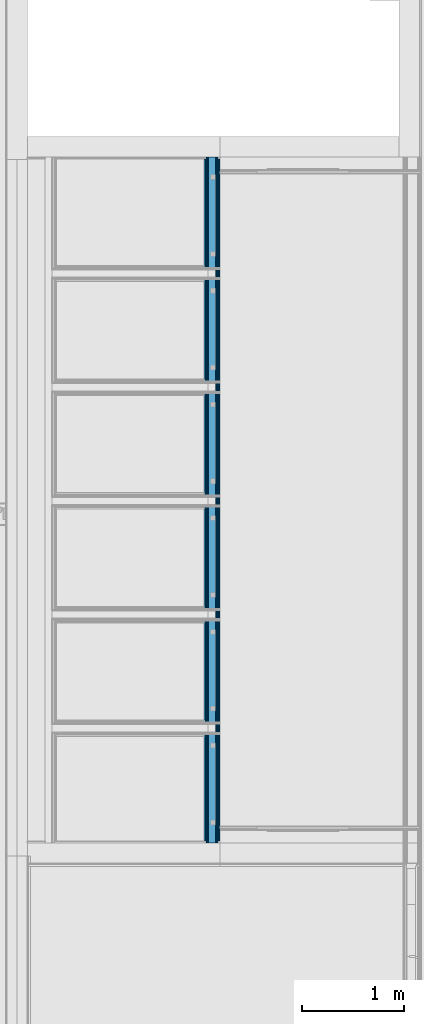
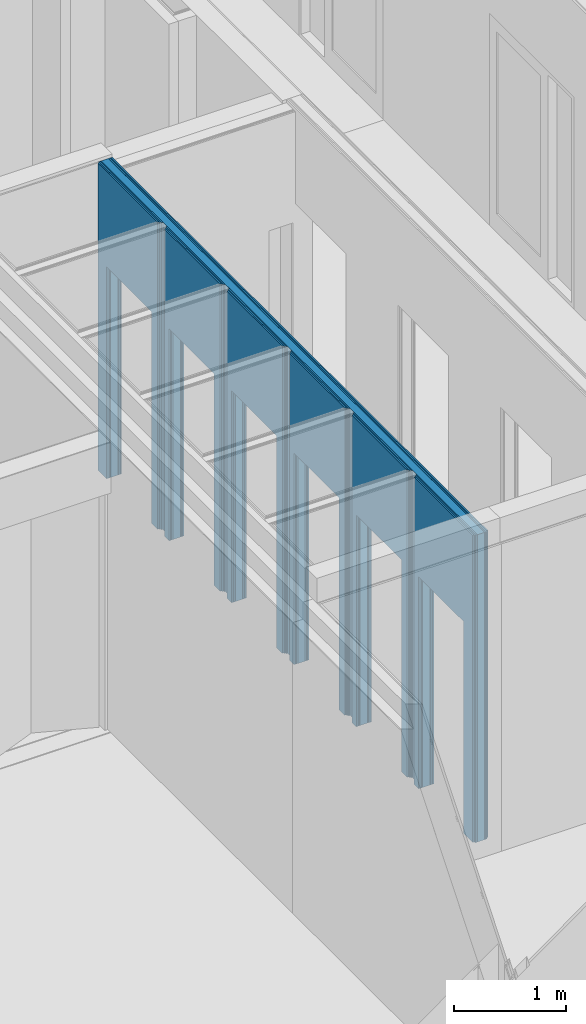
# One storey, part 65 of 139: 7 building element parts, 6 openings, 1 element without a shape of its own.
"""IFC2X3 building model written with IfcOpenShell, lengths in millimetres."""

from ifc_helpers import new_model, entity, si_unit, converted_unit, derived_unit, money_unit, direction, frame, origin_with_axes, place, context, subcontext, project, spatial, faceted_brep, material, type_object, element, aggregate, save


model = new_model("IFC2X3")

# Units and contexts
model_context = context("Model", 3, precision=0.01, world=origin_with_axes(), true_north=direction((0.0, 1.0)))
body_context = subcontext(model_context, "Body", "Model", "MODEL_VIEW")
ifc_project = project(units=[si_unit("LENGTHUNIT", "METRE", prefix="MILLI"), si_unit("AREAUNIT", "SQUARE_METRE"), si_unit("VOLUMEUNIT", "CUBIC_METRE"), converted_unit("PLANEANGLEUNIT", "DEGREE", entity("IfcPlaneAngleMeasure", 0.0174532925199), si_unit("PLANEANGLEUNIT", "RADIAN"), dimensions=[0, 0, 0, 0, 0, 0, 0]), money_unit("EUR"), converted_unit("TIMEUNIT", "Year", entity("IfcTimeMeasure", 31556926.0), si_unit("TIMEUNIT", "SECOND"), dimensions=[0, 0, 1, 0, 0, 0, 0]), si_unit("MASSUNIT", "GRAM", prefix="KILO"), si_unit("THERMODYNAMICTEMPERATUREUNIT", "DEGREE_CELSIUS"), si_unit("LUMINOUSINTENSITYUNIT", "LUMEN"), si_unit("ENERGYUNIT", "JOULE", prefix="MEGA"), derived_unit("THERMALCONDUCTANCEUNIT", [(si_unit("POWERUNIT", "WATT"), 1), (si_unit("LENGTHUNIT", "METRE"), -1), (si_unit("THERMODYNAMICTEMPERATUREUNIT", "KELVIN"), -1)]), derived_unit("SPECIFICHEATCAPACITYUNIT", [(si_unit("ENERGYUNIT", "JOULE"), 1), (si_unit("MASSUNIT", "GRAM", prefix="KILO"), -1), (si_unit("THERMODYNAMICTEMPERATUREUNIT", "KELVIN"), -1)]), derived_unit("MASSDENSITYUNIT", [(si_unit("MASSUNIT", "GRAM", prefix="KILO"), 1), (si_unit("VOLUMEUNIT", "CUBIC_METRE"), -1)])], contexts=[model_context])

# Site, building, storey
site_placement = place(None, origin_with_axes())
site = spatial("IfcSite", under=ifc_project, at=site_placement, Name="Kolde pst 67a", CompositionType="ELEMENT")
building_placement = place(site_placement, origin_with_axes())
building = spatial("IfcBuilding", under=site, at=building_placement, Name="Riigigümnaasium", CompositionType="ELEMENT")
storey_placement = place(building_placement, frame((0.0, 0.0, 4600.0), z_axis=(0.0, 0.0, 1.0), x_axis=(1.0, 0.0, 0.0)))
storey = spatial("IfcBuildingStorey", under=building, at=storey_placement, Name="2. korrus", CompositionType="ELEMENT", Elevation=4600.0)

# Wall, openings, building element parts
wall_type = type_object("IfcWallType", Name="SS-MK-7,5/1_plaaditud 155", PredefinedType="NOTDEFINED")
wall_placement = place(storey_placement, frame((71829.9993607, 21023.7853079, 0.0), z_axis=(0.0, 0.0, 1.0), x_axis=(1.23997581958e-07, -1.0, 0.0)))
wall = element("IfcWall", 1, at=wall_placement, inside=storey, type_object=wall_type, Name="Sisesein")
opening_1_placement = place(wall_placement, frame((6119.419996, 0.0, 0.0), z_axis=(0.0, 0.0, 1.0), x_axis=(1.0, 0.0, 0.0)))
element("IfcOpeningElement", 2, at=opening_1_placement, cuts=wall, Name="Siseuks", context=body_context, shape_type="Brep", body=[
    faceted_brep([(400.0, -155.0, 2300.0), (400.0, -155.0, 0.0), (400.0, 310.0, 0.0), (400.0, 310.0, 2300.0), (-400.0, -155.0, 2300.0), (-400.0, -155.0, 0.0), (-400.0, 310.0, 0.0), (-400.0, 310.0, 2300.0)], [[[0, 1, 2, 3]], [[0, 4, 5, 1]], [[1, 5, 6, 2]], [[3, 2, 6, 7]], [[4, 0, 3, 7]], [[5, 4, 7, 6]]]),
])
opening_2_placement = place(wall_placement, frame((5009.419996, 0.0, 0.0), z_axis=(0.0, 0.0, 1.0), x_axis=(1.0, 0.0, 0.0)))
element("IfcOpeningElement", 3, at=opening_2_placement, cuts=wall, Name="Siseuks", context=body_context, shape_type="Brep", body=[
    faceted_brep([(400.0, -155.0, 2300.0), (400.0, -155.0, 0.0), (400.0, 310.0, 0.0), (400.0, 310.0, 2300.0), (-400.0, -155.0, 2300.0), (-400.0, -155.0, 0.0), (-400.0, 310.0, 0.0), (-400.0, 310.0, 2300.0)], [[[0, 1, 2, 3]], [[0, 4, 5, 1]], [[1, 5, 6, 2]], [[3, 2, 6, 7]], [[4, 0, 3, 7]], [[5, 4, 7, 6]]]),
])
opening_3_placement = place(wall_placement, frame((3899.419996, 0.0, 0.0), z_axis=(0.0, 0.0, 1.0), x_axis=(1.0, 0.0, 0.0)))
element("IfcOpeningElement", 4, at=opening_3_placement, cuts=wall, Name="Siseuks", context=body_context, shape_type="Brep", body=[
    faceted_brep([(400.0, -155.0, 2300.0), (400.0, -155.0, 0.0), (400.0, 310.0, 0.0), (400.0, 310.0, 2300.0), (-400.0, -155.0, 2300.0), (-400.0, -155.0, 0.0), (-400.0, 310.0, 0.0), (-400.0, 310.0, 2300.0)], [[[0, 1, 2, 3]], [[0, 4, 5, 1]], [[1, 5, 6, 2]], [[3, 2, 6, 7]], [[4, 0, 3, 7]], [[5, 4, 7, 6]]]),
])
opening_4_placement = place(wall_placement, frame((2789.419996, 0.0, 0.0), z_axis=(0.0, 0.0, 1.0), x_axis=(1.0, 0.0, 0.0)))
element("IfcOpeningElement", 5, at=opening_4_placement, cuts=wall, Name="Siseuks", context=body_context, shape_type="Brep", body=[
    faceted_brep([(-400.0, 310.0, 2300.0), (-400.0, 310.0, 0.0), (-400.0, -155.0, 0.0), (-400.0, -155.0, 2300.0), (400.0, 310.0, 2300.0), (400.0, 310.0, 0.0), (400.0, -155.0, 0.0), (400.0, -155.0, 2300.0)], [[[0, 1, 2, 3]], [[0, 4, 5, 1]], [[1, 5, 6, 2]], [[3, 2, 6, 7]], [[4, 0, 3, 7]], [[5, 4, 7, 6]]]),
])
opening_5_placement = place(wall_placement, frame((1679.419996, 0.0, 0.0), z_axis=(0.0, 0.0, 1.0), x_axis=(1.0, 0.0, 0.0)))
element("IfcOpeningElement", 6, at=opening_5_placement, cuts=wall, Name="Siseuks", context=body_context, shape_type="Brep", body=[
    faceted_brep([(-400.0, 310.0, 2300.0), (-400.0, 310.0, 0.0), (-400.0, -155.0, 0.0), (-400.0, -155.0, 2300.0), (400.0, 310.0, 2300.0), (400.0, 310.0, 0.0), (400.0, -155.0, 0.0), (400.0, -155.0, 2300.0)], [[[0, 1, 2, 3]], [[0, 4, 5, 1]], [[1, 5, 6, 2]], [[3, 2, 6, 7]], [[4, 0, 3, 7]], [[5, 4, 7, 6]]]),
])
opening_6_placement = place(wall_placement, frame((569.419995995, 0.0, 0.0), z_axis=(0.0, 0.0, 1.0), x_axis=(1.0, 0.0, 0.0)))
element("IfcOpeningElement", 7, at=opening_6_placement, cuts=wall, Name="Siseuks", context=body_context, shape_type="Brep", body=[
    faceted_brep([(-400.0, 310.0, 2300.0), (-400.0, 310.0, 0.0), (-400.0, -155.0, 0.0), (-400.0, -155.0, 2300.0), (400.0, 310.0, 2300.0), (400.0, 310.0, 0.0), (400.0, -155.0, 0.0), (400.0, -155.0, 2300.0)], [[[0, 1, 2, 3]], [[0, 4, 5, 1]], [[1, 5, 6, 2]], [[3, 2, 6, 7]], [[4, 0, 3, 7]], [[5, 4, 7, 6]]]),
])
ifc_material_1 = material(Name="_VIIMISTLUSKIHT - viimistlus vastavalt SA osale")
building_element_part_1_placement = place(wall_placement, origin_with_axes())
building_element_part_1 = element("IfcBuildingElementPart", 8, at=building_element_part_1_placement, material=ifc_material_1, Name="_VIIMISTLUSKIHT - viimistlus vastavalt SA osale", context=body_context, shape_type="Brep", body=[
    faceted_brep([(969.419995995, -2.22481872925e-05, 0.0), (969.419995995, -2.50493883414e-05, 2300.0), (169.419995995, -2.50493883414e-05, 2300.0), (169.419995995, -2.02293080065e-05, 0.0), (15.0000145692, -1.98396037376e-05, 0.0), (15.0000145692, -1.98396037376e-05, 3300.0), (1.45880711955e-05, -1.98396037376e-05, 3300.0), (1.4578436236e-05, -9.68259428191e-06, 3335.0), (6679.419996, -3.66579797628e-05, 3335.0), (6679.419996, -3.66579797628e-05, 0.0), (6519.419996, -3.62541925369e-05, 0.0), (6519.419996, -9.68258007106e-06, 2300.0), (5719.419996, -9.68258007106e-06, 2300.0), (5719.419996, -3.4235313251e-05, 0.0), (5409.419996, -3.3452991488e-05, 0.0), (5409.419996, -3.62541925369e-05, 2300.0), (4609.419996, -3.62541925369e-05, 2300.0), (4609.419996, -3.14341122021e-05, 0.0), (4299.419996, -3.06517904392e-05, 0.0), (4299.419996, -3.3452991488e-05, 2300.0), (3499.419996, -3.3452991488e-05, 2300.0), (3499.419996, -2.86329111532e-05, 0.0), (3189.419996, -2.78505893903e-05, 0.0), (3189.419996, -3.06517904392e-05, 2300.0), (2389.419996, -3.06517904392e-05, 2300.0), (2389.419996, -2.58317101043e-05, 0.0), (2079.419996, -2.50493883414e-05, 0.0), (2079.419996, -2.78505893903e-05, 2300.0), (1279.419996, -2.78505893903e-05, 2300.0), (1279.419996, -2.30305090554e-05, 0.0), (969.419995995, -15.0, 0.0), (969.419995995, -15.0000000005, 2300.0), (169.419995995, -15.0000000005, 2300.0), (169.419995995, -15.0, 0.0), (15.0000127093, -15.0, 0.0), (15.0000127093, -15.000000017, 3300.0), (1.27279591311e-05, -15.000000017, 3300.0), (1.17380061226e-05, -15.000000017, 3335.0), (6679.41999414, -15.0000000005, 3335.0), (6679.41999414, -15.0, 0.0), (6519.419996, -15.0, 0.0), (6519.419996, -15.0000000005, 2300.0), (5719.419996, -15.0000000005, 2300.0), (5719.419996, -15.0, 0.0), (5409.419996, -15.0, 0.0), (5409.419996, -15.0000000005, 2300.0), (4609.419996, -15.0000000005, 2300.0), (4609.419996, -15.0, 0.0), (4299.419996, -15.0, 0.0), (4299.419996, -15.0000000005, 2300.0), (3499.419996, -15.0000000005, 2300.0), (3499.419996, -15.0, 0.0), (3189.419996, -15.0, 0.0), (3189.419996, -15.0000000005, 2300.0), (2389.419996, -15.0000000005, 2300.0), (2389.419996, -15.0, 0.0), (2079.419996, -15.0, 0.0), (2079.419996, -15.0000000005, 2300.0), (1279.419996, -15.0000000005, 2300.0), (1279.419996, -15.0, 0.0)], [[[0, 1, 2, 3, 4, 5, 6, 7, 8, 9, 10, 11, 12, 13, 14, 15, 16, 17, 18, 19, 20, 21, 22, 23, 24, 25, 26, 27, 28, 29]], [[1, 0, 30, 31]], [[2, 1, 31, 32]], [[3, 2, 32, 33]], [[3, 33, 34, 4]], [[4, 34, 35, 5]], [[6, 5, 35, 36]], [[6, 36, 37, 7]], [[37, 38, 8, 7]], [[39, 9, 8, 38]], [[10, 9, 39, 40]], [[10, 40, 41, 11]], [[11, 41, 42, 12]], [[12, 42, 43, 13]], [[44, 14, 13, 43]], [[15, 14, 44, 45]], [[16, 15, 45, 46]], [[17, 16, 46, 47]], [[47, 48, 18, 17]], [[49, 19, 18, 48]], [[50, 20, 19, 49]], [[51, 21, 20, 50]], [[21, 51, 52, 22]], [[52, 53, 23, 22]], [[53, 54, 24, 23]], [[54, 55, 25, 24]], [[26, 25, 55, 56]], [[26, 56, 57, 27]], [[27, 57, 58, 28]], [[28, 58, 59, 29]], [[30, 0, 29, 59]], [[31, 30, 59, 58, 57, 56, 55, 54, 53, 52, 51, 50, 49, 48, 47, 46, 45, 44, 43, 42, 41, 40, 39, 38, 37, 36, 35, 34, 33, 32]]]),
])
ifc_material_2 = material(Name="_PLAATMATERJAL - kipsplaat veekindel")
building_element_part_2_placement = place(wall_placement, origin_with_axes())
building_element_part_2 = element("IfcBuildingElementPart", 9, at=building_element_part_2_placement, material=ifc_material_2, Name="_PLAATMATERJAL - kipsplaat veekindel", context=body_context, shape_type="Brep", body=[
    faceted_brep([(969.419995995, -15.0, 0.0), (969.419995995, -15.0, 2300.0), (169.419995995, -15.0, 2300.0), (169.419995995, -15.0, 0.0), (1.29458150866e-05, -15.0, 0.0), (1.43267087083e-06, -15.0000000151, 3335.0), (6694.41998855, -15.0000000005, 3335.0), (6694.41998855, -15.0, 0.0), (6519.419996, -15.0, 0.0), (6519.419996, -15.0000000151, 2300.0), (5719.419996, -15.0000000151, 2300.0), (5719.419996, -15.0, 0.0), (5409.419996, -15.0, 0.0), (5409.419996, -15.0, 2300.0), (4609.419996, -15.0, 2300.0), (4609.419996, -15.0, 0.0), (4299.419996, -15.0, 0.0), (4299.419996, -15.0, 2300.0), (3499.419996, -15.0, 2300.0), (3499.419996, -15.0, 0.0), (3189.419996, -15.0, 0.0), (3189.419996, -15.0, 2300.0), (2389.419996, -15.0, 2300.0), (2389.419996, -15.0, 0.0), (2079.419996, -15.0, 0.0), (2079.419996, -15.0, 2300.0), (1279.419996, -15.0, 2300.0), (1279.419996, -15.0, 0.0), (969.419995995, -27.5, 0.0), (969.419995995, -27.5, 2300.0), (169.419995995, -27.5, 2300.0), (169.419995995, -27.5, 0.0), (1.13958442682e-05, -27.5, 0.0), (1.2611423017e-06, -27.5, 3335.0), (6694.419987, -27.5, 3335.0), (6694.419987, -27.5, 0.0), (6519.419996, -27.5, 0.0), (6519.419996, -27.5, 2300.0), (5719.419996, -27.5, 2300.0), (5719.419996, -27.5, 0.0), (5409.419996, -27.5, 0.0), (5409.419996, -27.5, 2300.0), (4609.419996, -27.5, 2300.0), (4609.419996, -27.5, 0.0), (4299.419996, -27.5, 0.0), (4299.419996, -27.5, 2300.0), (3499.419996, -27.5, 2300.0), (3499.419996, -27.5, 0.0), (3189.419996, -27.5, 0.0), (3189.419996, -27.5, 2300.0), (2389.419996, -27.5, 2300.0), (2389.419996, -27.5, 0.0), (2079.419996, -27.5, 0.0), (2079.419996, -27.5, 2300.0), (1279.419996, -27.5, 2300.0), (1279.419996, -27.5, 0.0)], [[[0, 1, 2, 3, 4, 5, 6, 7, 8, 9, 10, 11, 12, 13, 14, 15, 16, 17, 18, 19, 20, 21, 22, 23, 24, 25, 26, 27]], [[1, 0, 28, 29]], [[2, 1, 29, 30]], [[3, 2, 30, 31]], [[3, 31, 32, 4]], [[4, 32, 33, 5]], [[33, 34, 6, 5]], [[35, 7, 6, 34]], [[8, 7, 35, 36]], [[8, 36, 37, 9]], [[9, 37, 38, 10]], [[10, 38, 39, 11]], [[40, 12, 11, 39]], [[13, 12, 40, 41]], [[14, 13, 41, 42]], [[15, 14, 42, 43]], [[43, 44, 16, 15]], [[45, 17, 16, 44]], [[46, 18, 17, 45]], [[47, 19, 18, 46]], [[19, 47, 48, 20]], [[48, 49, 21, 20]], [[49, 50, 22, 21]], [[50, 51, 23, 22]], [[24, 23, 51, 52]], [[24, 52, 53, 25]], [[25, 53, 54, 26]], [[26, 54, 55, 27]], [[28, 0, 27, 55]], [[29, 28, 55, 54, 53, 52, 51, 50, 49, 48, 47, 46, 45, 44, 43, 42, 41, 40, 39, 38, 37, 36, 35, 34, 33, 32, 31, 30]]]),
])
building_element_part_3_placement = place(wall_placement, origin_with_axes())
building_element_part_3 = element("IfcBuildingElementPart", 10, at=building_element_part_3_placement, material=ifc_material_2, Name="_PLAATMATERJAL - kipsplaat veekindel", context=body_context, shape_type="Brep", body=[
    faceted_brep([(969.419995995, -27.5, 0.0), (969.419995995, -27.5, 2300.0), (169.419995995, -27.5, 2300.0), (169.419995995, -27.5, 0.0), (1.13958442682e-05, -27.5, 0.0), (1.2611423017e-06, -27.5, 3335.0), (6694.419987, -27.5, 3335.0), (6694.419987, -27.5, 0.0), (6519.419996, -27.5, 0.0), (6519.419996, -27.5, 2300.0), (5719.419996, -27.5, 2300.0), (5719.419996, -27.5, 0.0), (5409.419996, -27.5, 0.0), (5409.419996, -27.5, 2300.0), (4609.419996, -27.5, 2300.0), (4609.419996, -27.5, 0.0), (4299.419996, -27.5, 0.0), (4299.419996, -27.5, 2300.0), (3499.419996, -27.5, 2300.0), (3499.419996, -27.5, 0.0), (3189.419996, -27.5, 0.0), (3189.419996, -27.5, 2300.0), (2389.419996, -27.5, 2300.0), (2389.419996, -27.5, 0.0), (2079.419996, -27.5, 0.0), (2079.419996, -27.5, 2300.0), (1279.419996, -27.5, 2300.0), (1279.419996, -27.5, 0.0), (969.419995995, -40.0, 0.0), (969.419995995, -40.0000000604, 2300.0), (169.419995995, -40.0000000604, 2300.0), (169.419995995, -40.0, 0.0), (9.84587700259e-06, -40.0, 0.0), (1.08961373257e-06, -40.0000018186, 3335.0), (6694.41998545, -40.0000000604, 3335.0), (6694.41998545, -40.0, 0.0), (6519.419996, -40.0, 0.0), (6519.419996, -40.0000000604, 2300.0), (5719.419996, -40.0000000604, 2300.0), (5719.419996, -40.0, 0.0), (5409.419996, -40.0, 0.0), (5409.419996, -40.0000000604, 2300.0), (4609.419996, -40.0000000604, 2300.0), (4609.419996, -40.0, 0.0), (4299.419996, -40.0, 0.0), (4299.419996, -40.0000000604, 2300.0), (3499.419996, -40.0000000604, 2300.0), (3499.419996, -40.0, 0.0), (3189.419996, -40.0, 0.0), (3189.419996, -40.0000000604, 2300.0), (2389.419996, -40.0000000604, 2300.0), (2389.419996, -40.0, 0.0), (2079.419996, -40.0, 0.0), (2079.419996, -40.0000000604, 2300.0), (1279.419996, -40.0000000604, 2300.0), (1279.419996, -40.0, 0.0)], [[[0, 1, 2, 3, 4, 5, 6, 7, 8, 9, 10, 11, 12, 13, 14, 15, 16, 17, 18, 19, 20, 21, 22, 23, 24, 25, 26, 27]], [[1, 0, 28, 29]], [[2, 1, 29, 30]], [[3, 2, 30, 31]], [[3, 31, 32, 4]], [[4, 32, 33, 5]], [[33, 34, 6, 5]], [[35, 7, 6, 34]], [[8, 7, 35, 36]], [[8, 36, 37, 9]], [[9, 37, 38, 10]], [[10, 38, 39, 11]], [[40, 12, 11, 39]], [[13, 12, 40, 41]], [[14, 13, 41, 42]], [[15, 14, 42, 43]], [[43, 44, 16, 15]], [[45, 17, 16, 44]], [[46, 18, 17, 45]], [[47, 19, 18, 46]], [[19, 47, 48, 20]], [[48, 49, 21, 20]], [[49, 50, 22, 21]], [[50, 51, 23, 22]], [[24, 23, 51, 52]], [[24, 52, 53, 25]], [[25, 53, 54, 26]], [[26, 54, 55, 27]], [[28, 0, 27, 55]], [[29, 28, 55, 54, 53, 52, 51, 50, 49, 48, 47, 46, 45, 44, 43, 42, 41, 40, 39, 38, 37, 36, 35, 34, 33, 32, 31, 30]]]),
])
ifc_material_3 = material(Name="_KARKASS - metallkarkass CW 75/50, mineraalvill karkassi vahel")
building_element_part_4_placement = place(wall_placement, origin_with_axes())
building_element_part_4 = element("IfcBuildingElementPart", 11, at=building_element_part_4_placement, material=ifc_material_3, Name="_KARKASS - metallkarkass CW 75/50, mineraalvill karkassi vahel", context=body_context, shape_type="Brep", body=[
    faceted_brep([(969.419995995, -40.0, 0.0), (969.419995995, -40.0, 2300.0), (169.419995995, -40.0, 2300.0), (169.419995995, -40.0, 0.0), (9.84587700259e-06, -40.0, 0.0), (1.08961373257e-06, -40.0000018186, 3335.0), (6694.41998545, -40.0000000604, 3335.0), (6694.41998545, -40.0, 0.0), (6519.419996, -40.0, 0.0), (6519.419996, -40.0000018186, 2300.0), (5719.419996, -40.0000018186, 2300.0), (5719.419996, -40.0, 0.0), (5409.419996, -40.0, 0.0), (5409.419996, -40.0, 2300.0), (4609.419996, -40.0, 2300.0), (4609.419996, -40.0, 0.0), (4299.419996, -40.0, 0.0), (4299.419996, -40.0, 2300.0), (3499.419996, -40.0, 2300.0), (3499.419996, -40.0, 0.0), (3189.419996, -40.0, 0.0), (3189.419996, -40.0, 2300.0), (2389.419996, -40.0, 2300.0), (2389.419996, -40.0, 0.0), (2079.419996, -40.0, 0.0), (2079.419996, -40.0, 2300.0), (1279.419996, -40.0, 2300.0), (1279.419996, -40.0, 0.0), (969.419995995, -115.0, 0.0), (969.419995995, -115.000000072, 2300.0), (169.419995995, -115.000000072, 2300.0), (169.419995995, -115.0, 0.0), (5.46059197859e-07, -115.0, 0.0), (6.04316596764e-08, -115.000002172, 3335.0), (6694.41997615, -115.000000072, 3335.0), (6694.41997615, -115.0, 0.0), (6519.419996, -115.0, 0.0), (6519.419996, -115.000000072, 2300.0), (5719.419996, -115.000000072, 2300.0), (5719.419996, -115.0, 0.0), (5409.419996, -115.0, 0.0), (5409.419996, -115.000000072, 2300.0), (4609.419996, -115.000000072, 2300.0), (4609.419996, -115.0, 0.0), (4299.419996, -115.0, 0.0), (4299.419996, -115.000000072, 2300.0), (3499.419996, -115.000000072, 2300.0), (3499.419996, -115.0, 0.0), (3189.419996, -115.0, 0.0), (3189.419996, -115.000000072, 2300.0), (2389.419996, -115.000000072, 2300.0), (2389.419996, -115.0, 0.0), (2079.419996, -115.0, 0.0), (2079.419996, -115.000000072, 2300.0), (1279.419996, -115.000000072, 2300.0), (1279.419996, -115.0, 0.0)], [[[0, 1, 2, 3, 4, 5, 6, 7, 8, 9, 10, 11, 12, 13, 14, 15, 16, 17, 18, 19, 20, 21, 22, 23, 24, 25, 26, 27]], [[1, 0, 28, 29]], [[2, 1, 29, 30]], [[3, 2, 30, 31]], [[3, 31, 32, 4]], [[4, 32, 33, 5]], [[33, 34, 6, 5]], [[35, 7, 6, 34]], [[8, 7, 35, 36]], [[8, 36, 37, 9]], [[9, 37, 38, 10]], [[10, 38, 39, 11]], [[40, 12, 11, 39]], [[13, 12, 40, 41]], [[14, 13, 41, 42]], [[15, 14, 42, 43]], [[43, 44, 16, 15]], [[45, 17, 16, 44]], [[46, 18, 17, 45]], [[47, 19, 18, 46]], [[19, 47, 48, 20]], [[48, 49, 21, 20]], [[49, 50, 22, 21]], [[50, 51, 23, 22]], [[24, 23, 51, 52]], [[24, 52, 53, 25]], [[25, 53, 54, 26]], [[26, 54, 55, 27]], [[28, 0, 27, 55]], [[29, 28, 55, 54, 53, 52, 51, 50, 49, 48, 47, 46, 45, 44, 43, 42, 41, 40, 39, 38, 37, 36, 35, 34, 33, 32, 31, 30]]]),
])
building_element_part_5_placement = place(wall_placement, origin_with_axes())
building_element_part_5 = element("IfcBuildingElementPart", 12, at=building_element_part_5_placement, material=ifc_material_2, Name="_PLAATMATERJAL - kipsplaat veekindel", context=body_context, shape_type="Brep", body=[
    faceted_brep([(6519.419996, -115.0, 0.0), (6519.419996, -115.000000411, 2300.0), (5719.419996, -115.000000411, 2300.0), (5719.419996, -115.0, 0.0), (5613.78532278, -115.0, 0.0), (5613.78532278, -115.000000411, 3335.0), (6694.41997615, -115.000000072, 3335.0), (6694.41997615, -115.0, 0.0), (6519.419996, -127.5, 0.0), (6519.419996, -127.5, 2300.0), (5719.419996, -127.5, 2300.0), (5719.419996, -127.5, 0.0), (5613.78532123, -127.5, 0.0), (5613.78532123, -127.5, 3335.0), (6694.4199746, -127.5, 3335.0), (6694.4199746, -127.5, 0.0)], [[[0, 1, 2, 3, 4, 5, 6, 7]], [[1, 0, 8, 9]], [[2, 1, 9, 10]], [[3, 2, 10, 11]], [[3, 11, 12, 4]], [[5, 4, 12, 13]], [[5, 13, 14, 6]], [[14, 15, 7, 6]], [[8, 0, 7, 15]], [[9, 8, 15, 14, 13, 12, 11, 10]]]),
    faceted_brep([(5409.419996, -115.0, 0.0), (5409.419996, -115.000000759, 2300.0), (4609.419996, -115.000000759, 2300.0), (4609.419996, -115.0, 0.0), (4503.78532278, -115.0, 0.0), (4503.78532278, -115.000000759, 3335.0), (5538.78532278, -115.000000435, 3335.0), (5538.78532278, -115.0, 0.0), (5409.419996, -127.5, 0.0), (5409.419996, -127.5, 2300.0), (4609.419996, -127.5, 2300.0), (4609.419996, -127.5, 0.0), (4503.78532123, -127.5, 0.0), (4503.78532123, -127.5, 3335.0), (5538.78532123, -127.5, 3335.0), (5538.78532123, -127.5, 0.0)], [[[0, 1, 2, 3, 4, 5, 6, 7]], [[1, 0, 8, 9]], [[2, 1, 9, 10]], [[3, 2, 10, 11]], [[3, 11, 12, 4]], [[5, 4, 12, 13]], [[5, 13, 14, 6]], [[14, 15, 7, 6]], [[8, 0, 7, 15]], [[9, 8, 15, 14, 13, 12, 11, 10]]]),
    faceted_brep([(4299.419996, -115.0, 0.0), (4299.419996, -115.000001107, 2300.0), (3499.419996, -115.000001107, 2300.0), (3499.419996, -115.0, 0.0), (3393.78532278, -115.0, 0.0), (3393.78532278, -115.000001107, 3335.0), (4428.78532278, -115.000000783, 3335.0), (4428.78532278, -115.0, 0.0), (4299.419996, -127.5, 0.0), (4299.419996, -127.5, 2300.0), (3499.419996, -127.5, 2300.0), (3499.419996, -127.5, 0.0), (3393.78532123, -127.5, 0.0), (3393.78532123, -127.5, 3335.0), (4428.78532123, -127.5, 3335.0), (4428.78532123, -127.5, 0.0)], [[[0, 1, 2, 3, 4, 5, 6, 7]], [[1, 0, 8, 9]], [[2, 1, 9, 10]], [[3, 2, 10, 11]], [[3, 11, 12, 4]], [[5, 4, 12, 13]], [[5, 13, 14, 6]], [[14, 15, 7, 6]], [[8, 0, 7, 15]], [[9, 8, 15, 14, 13, 12, 11, 10]]]),
    faceted_brep([(3189.419996, -115.0, 0.0), (3189.419996, -115.000001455, 2300.0), (2389.419996, -115.000001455, 2300.0), (2389.419996, -115.0, 0.0), (2283.78532278, -115.0, 0.0), (2283.78532278, -115.000001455, 3335.0), (3318.78532278, -115.000001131, 3335.0), (3318.78532278, -115.0, 0.0), (3189.419996, -127.5, 0.0), (3189.419996, -127.5, 2300.0), (2389.419996, -127.5, 2300.0), (2389.419996, -127.5, 0.0), (2283.78532123, -127.5, 0.0), (2283.78532123, -127.5, 3335.0), (3318.78532123, -127.5, 3335.0), (3318.78532123, -127.5, 0.0)], [[[0, 1, 2, 3, 4, 5, 6, 7]], [[1, 0, 8, 9]], [[2, 1, 9, 10]], [[3, 2, 10, 11]], [[3, 11, 12, 4]], [[5, 4, 12, 13]], [[5, 13, 14, 6]], [[14, 15, 7, 6]], [[8, 0, 7, 15]], [[9, 8, 15, 14, 13, 12, 11, 10]]]),
    faceted_brep([(2079.419996, -115.0, 0.0), (2079.419996, -115.000001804, 2300.0), (1279.419996, -115.000001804, 2300.0), (1279.419996, -115.0, 0.0), (1173.78532278, -115.0, 0.0), (1173.78532278, -115.000001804, 3335.0), (2208.78532278, -115.000001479, 3335.0), (2208.78532278, -115.0, 0.0), (2079.419996, -127.5, 0.0), (2079.419996, -127.5, 2300.0), (1279.419996, -127.5, 2300.0), (1279.419996, -127.5, 0.0), (1173.78532123, -127.5, 0.0), (1173.78532123, -127.5, 3335.0), (2208.78532123, -127.5, 3335.0), (2208.78532123, -127.5, 0.0)], [[[0, 1, 2, 3, 4, 5, 6, 7]], [[1, 0, 8, 9]], [[2, 1, 9, 10]], [[3, 2, 10, 11]], [[3, 11, 12, 4]], [[5, 4, 12, 13]], [[5, 13, 14, 6]], [[14, 15, 7, 6]], [[8, 0, 7, 15]], [[9, 8, 15, 14, 13, 12, 11, 10]]]),
    faceted_brep([(969.419995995, -115.0, 0.0), (969.419995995, -115.000002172, 2300.0), (169.419995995, -115.000002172, 2300.0), (169.419995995, -115.0, 0.0), (5.46059197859e-07, -115.0, 0.0), (6.04316596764e-08, -115.000002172, 3335.0), (1098.78532278, -115.000001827, 3335.0), (1098.78532278, -115.0, 0.0), (969.419995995, -127.5, 0.0), (969.419995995, -127.5, 2300.0), (169.419995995, -127.5, 2300.0), (169.419995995, -127.5, 0.0), (-1.0039116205e-06, -127.5, 0.0), (-1.1109690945e-07, -127.5, 3335.0), (1098.78532123, -127.5, 3335.0), (1098.78532123, -127.5, 0.0)], [[[0, 1, 2, 3, 4, 5, 6, 7]], [[1, 0, 8, 9]], [[2, 1, 9, 10]], [[3, 2, 10, 11]], [[3, 11, 12, 4]], [[5, 4, 12, 13]], [[5, 13, 14, 6]], [[14, 15, 7, 6]], [[8, 0, 7, 15]], [[9, 8, 15, 14, 13, 12, 11, 10]]]),
])
building_element_part_6_placement = place(wall_placement, origin_with_axes())
building_element_part_6 = element("IfcBuildingElementPart", 13, at=building_element_part_6_placement, material=ifc_material_2, Name="_PLAATMATERJAL - kipsplaat veekindel", context=body_context, shape_type="Brep", body=[
    faceted_brep([(6519.419996, -127.5, 0.0), (6519.419996, -127.5, 2300.0), (5719.419996, -127.5, 2300.0), (5719.419996, -127.5, 0.0), (5626.28532123, -127.5, 0.0), (5626.28532123, -127.5, 3335.0), (6694.4199746, -127.5, 3335.0), (6694.4199746, -127.5, 0.0), (6519.419996, -140.0, 0.0), (6519.419996, -139.999999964, 2300.0), (5719.419996, -139.999999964, 2300.0), (5719.419996, -140.0, 0.0), (5626.28531968, -140.0, 0.0), (5626.28531968, -139.999999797, 3335.0), (6694.41997305, -139.999999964, 3335.0), (6694.41997305, -140.0, 0.0)], [[[0, 1, 2, 3, 4, 5, 6, 7]], [[1, 0, 8, 9]], [[2, 1, 9, 10]], [[3, 2, 10, 11]], [[3, 11, 12, 4]], [[5, 4, 12, 13]], [[5, 13, 14, 6]], [[14, 15, 7, 6]], [[8, 0, 7, 15]], [[9, 8, 15, 14, 13, 12, 11, 10]]]),
    faceted_brep([(5409.419996, -127.5, 0.0), (5409.419996, -127.5, 2300.0), (4609.419996, -127.5, 2300.0), (4609.419996, -127.5, 0.0), (4516.28532123, -127.5, 0.0), (4516.28532123, -127.5, 3335.0), (5526.28532123, -127.5, 3335.0), (5526.28532123, -127.5, 0.0), (5409.419996, -140.0, 0.0), (5409.419996, -139.999999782, 2300.0), (4609.419996, -139.999999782, 2300.0), (4609.419996, -140.0, 0.0), (4516.28531968, -140.0, 0.0), (4516.28531968, -139.999999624, 3335.0), (5526.28531968, -139.999999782, 3335.0), (5526.28531968, -140.0, 0.0)], [[[0, 1, 2, 3, 4, 5, 6, 7]], [[1, 0, 8, 9]], [[2, 1, 9, 10]], [[3, 2, 10, 11]], [[3, 11, 12, 4]], [[5, 4, 12, 13]], [[5, 13, 14, 6]], [[14, 15, 7, 6]], [[8, 0, 7, 15]], [[9, 8, 15, 14, 13, 12, 11, 10]]]),
    faceted_brep([(4299.419996, -127.5, 0.0), (4299.419996, -127.5, 2300.0), (3499.419996, -127.5, 2300.0), (3499.419996, -127.5, 0.0), (3406.28532123, -127.5, 0.0), (3406.28532123, -127.5, 3335.0), (4416.28532123, -127.5, 3335.0), (4416.28532123, -127.5, 0.0), (4299.419996, -140.0, 0.0), (4299.419996, -139.999999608, 2300.0), (3499.419996, -139.999999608, 2300.0), (3499.419996, -140.0, 0.0), (3406.28531968, -140.0, 0.0), (3406.28531968, -139.99999945, 3335.0), (4416.28531968, -139.999999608, 3335.0), (4416.28531968, -140.0, 0.0)], [[[0, 1, 2, 3, 4, 5, 6, 7]], [[1, 0, 8, 9]], [[2, 1, 9, 10]], [[3, 2, 10, 11]], [[3, 11, 12, 4]], [[5, 4, 12, 13]], [[5, 13, 14, 6]], [[14, 15, 7, 6]], [[8, 0, 7, 15]], [[9, 8, 15, 14, 13, 12, 11, 10]]]),
    faceted_brep([(3189.419996, -127.5, 0.0), (3189.419996, -127.5, 2300.0), (2389.419996, -127.5, 2300.0), (2389.419996, -127.5, 0.0), (2296.28532123, -127.5, 0.0), (2296.28532123, -127.5, 3335.0), (3306.28532123, -127.5, 3335.0), (3306.28532123, -127.5, 0.0), (3189.419996, -140.0, 0.0), (3189.419996, -139.999999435, 2300.0), (2389.419996, -139.999999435, 2300.0), (2389.419996, -140.0, 0.0), (2296.28531968, -140.0, 0.0), (2296.28531968, -139.999999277, 3335.0), (3306.28531968, -139.999999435, 3335.0), (3306.28531968, -140.0, 0.0)], [[[0, 1, 2, 3, 4, 5, 6, 7]], [[1, 0, 8, 9]], [[2, 1, 9, 10]], [[3, 2, 10, 11]], [[3, 11, 12, 4]], [[5, 4, 12, 13]], [[5, 13, 14, 6]], [[14, 15, 7, 6]], [[8, 0, 7, 15]], [[9, 8, 15, 14, 13, 12, 11, 10]]]),
    faceted_brep([(2079.419996, -127.5, 0.0), (2079.419996, -127.5, 2300.0), (1279.419996, -127.5, 2300.0), (1279.419996, -127.5, 0.0), (1186.28532123, -127.5, 0.0), (1186.28532123, -127.5, 3335.0), (2196.28532123, -127.5, 3335.0), (2196.28532123, -127.5, 0.0), (2079.419996, -140.0, 0.0), (2079.419996, -139.999999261, 2300.0), (1279.419996, -139.999999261, 2300.0), (1279.419996, -140.0, 0.0), (1186.28531968, -140.0, 0.0), (1186.28531968, -139.999999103, 3335.0), (2196.28531968, -139.999999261, 3335.0), (2196.28531968, -140.0, 0.0)], [[[0, 1, 2, 3, 4, 5, 6, 7]], [[1, 0, 8, 9]], [[2, 1, 9, 10]], [[3, 2, 10, 11]], [[3, 11, 12, 4]], [[5, 4, 12, 13]], [[5, 13, 14, 6]], [[14, 15, 7, 6]], [[8, 0, 7, 15]], [[9, 8, 15, 14, 13, 12, 11, 10]]]),
    faceted_brep([(969.419995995, -127.5, 0.0), (969.419995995, -127.5, 2300.0), (169.419995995, -127.5, 2300.0), (169.419995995, -127.5, 0.0), (-1.0039116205e-06, -127.5, 0.0), (-1.1109690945e-07, -127.5, 3335.0), (1086.28532123, -127.5, 3335.0), (1086.28532123, -127.5, 0.0), (969.419995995, -140.0, 0.0), (969.419995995, -139.999999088, 2300.0), (169.419995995, -139.999999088, 2300.0), (169.419995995, -140.0, 0.0), (-2.55388243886e-06, -140.0, 0.0), (-2.8262903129e-07, -139.999998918, 3335.0), (1086.28531968, -139.999999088, 3335.0), (1086.28531968, -140.0, 0.0)], [[[0, 1, 2, 3, 4, 5, 6, 7]], [[1, 0, 8, 9]], [[2, 1, 9, 10]], [[3, 2, 10, 11]], [[3, 11, 12, 4]], [[5, 4, 12, 13]], [[5, 13, 14, 6]], [[14, 15, 7, 6]], [[8, 0, 7, 15]], [[9, 8, 15, 14, 13, 12, 11, 10]]]),
])
building_element_part_7_placement = place(wall_placement, origin_with_axes())
building_element_part_7 = element("IfcBuildingElementPart", 14, at=building_element_part_7_placement, material=ifc_material_1, Name="_VIIMISTLUSKIHT - viimistlus vastavalt SA osale", context=body_context, shape_type="Brep", body=[
    faceted_brep([(6519.419996, -140.0, 0.0), (6519.419996, -139.999999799, 2300.0), (5719.419996, -139.999999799, 2300.0), (5719.419996, -140.0, 0.0), (5638.78531968, -140.0, 0.0), (5638.78531968, -139.999999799, 3335.0), (6679.41997864, -139.999999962, 3335.0), (6679.41997864, -140.0, 0.0), (6519.419996, -155.0, 0.0), (6519.419996, -155.0, 2300.0), (5719.419996, -155.0, 2300.0), (5719.419996, -155.0, 0.0), (5638.78531782, -155.0, 0.0), (5638.78531782, -155.0, 3335.0), (6679.41997678, -155.0, 3335.0), (6679.41997678, -155.0, 0.0)], [[[0, 1, 2, 3, 4, 5, 6, 7]], [[1, 0, 8, 9]], [[2, 1, 9, 10]], [[3, 2, 10, 11]], [[3, 11, 12, 4]], [[5, 4, 12, 13]], [[5, 13, 14, 6]], [[14, 15, 7, 6]], [[8, 0, 7, 15]], [[9, 8, 15, 14, 13, 12, 11, 10]]]),
    faceted_brep([(5409.419996, -140.0, 0.0), (5409.419996, -139.999999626, 2300.0), (4609.419996, -139.999999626, 2300.0), (4609.419996, -140.0, 0.0), (4528.78531968, -140.0, 0.0), (4528.78531968, -139.999999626, 3335.0), (5513.78531968, -139.99999978, 3335.0), (5513.78531968, -140.0, 0.0), (5409.419996, -155.0, 0.0), (5409.419996, -155.0, 2300.0), (4609.419996, -155.0, 2300.0), (4609.419996, -155.0, 0.0), (4528.78531782, -155.0, 0.0), (4528.78531782, -155.0, 3335.0), (5513.78531782, -155.0, 3335.0), (5513.78531782, -155.0, 0.0)], [[[0, 1, 2, 3, 4, 5, 6, 7]], [[1, 0, 8, 9]], [[2, 1, 9, 10]], [[3, 2, 10, 11]], [[3, 11, 12, 4]], [[5, 4, 12, 13]], [[5, 13, 14, 6]], [[14, 15, 7, 6]], [[8, 0, 7, 15]], [[9, 8, 15, 14, 13, 12, 11, 10]]]),
    faceted_brep([(4299.419996, -140.0, 0.0), (4299.419996, -139.999999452, 2300.0), (3499.419996, -139.999999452, 2300.0), (3499.419996, -140.0, 0.0), (3418.78531968, -140.0, 0.0), (3418.78531968, -139.999999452, 3335.0), (4403.78531968, -139.999999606, 3335.0), (4403.78531968, -140.0, 0.0), (4299.419996, -155.0, 0.0), (4299.419996, -155.0, 2300.0), (3499.419996, -155.0, 2300.0), (3499.419996, -155.0, 0.0), (3418.78531782, -155.0, 0.0), (3418.78531782, -155.0, 3335.0), (4403.78531782, -155.0, 3335.0), (4403.78531782, -155.0, 0.0)], [[[0, 1, 2, 3, 4, 5, 6, 7]], [[1, 0, 8, 9]], [[2, 1, 9, 10]], [[3, 2, 10, 11]], [[3, 11, 12, 4]], [[5, 4, 12, 13]], [[5, 13, 14, 6]], [[14, 15, 7, 6]], [[8, 0, 7, 15]], [[9, 8, 15, 14, 13, 12, 11, 10]]]),
    faceted_brep([(3189.419996, -140.0, 0.0), (3189.419996, -139.999999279, 2300.0), (2389.419996, -139.999999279, 2300.0), (2389.419996, -140.0, 0.0), (2308.78531968, -140.0, 0.0), (2308.78531968, -139.999999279, 3335.0), (3293.78531968, -139.999999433, 3335.0), (3293.78531968, -140.0, 0.0), (3189.419996, -155.0, 0.0), (3189.419996, -155.0, 2300.0), (2389.419996, -155.0, 2300.0), (2389.419996, -155.0, 0.0), (2308.78531782, -155.0, 0.0), (2308.78531782, -155.0, 3335.0), (3293.78531782, -155.0, 3335.0), (3293.78531782, -155.0, 0.0)], [[[0, 1, 2, 3, 4, 5, 6, 7]], [[1, 0, 8, 9]], [[2, 1, 9, 10]], [[3, 2, 10, 11]], [[3, 11, 12, 4]], [[5, 4, 12, 13]], [[5, 13, 14, 6]], [[14, 15, 7, 6]], [[8, 0, 7, 15]], [[9, 8, 15, 14, 13, 12, 11, 10]]]),
    faceted_brep([(2079.419996, -140.0, 0.0), (2079.419996, -139.999999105, 2300.0), (1279.419996, -139.999999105, 2300.0), (1279.419996, -140.0, 0.0), (1198.78531968, -140.0, 0.0), (1198.78531968, -139.999999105, 3335.0), (2183.78531968, -139.999999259, 3335.0), (2183.78531968, -140.0, 0.0), (2079.419996, -155.0, 0.0), (2079.419996, -155.0, 2300.0), (1279.419996, -155.0, 2300.0), (1279.419996, -155.0, 0.0), (1198.78531782, -155.0, 0.0), (1198.78531782, -155.0, 3335.0), (2183.78531782, -155.0, 3335.0), (2183.78531782, -155.0, 0.0)], [[[0, 1, 2, 3, 4, 5, 6, 7]], [[1, 0, 8, 9]], [[2, 1, 9, 10]], [[3, 2, 10, 11]], [[3, 11, 12, 4]], [[5, 4, 12, 13]], [[5, 13, 14, 6]], [[14, 15, 7, 6]], [[8, 0, 7, 15]], [[9, 8, 15, 14, 13, 12, 11, 10]]]),
    faceted_brep([(969.419995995, -140.0, 0.0), (969.419995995, -139.999998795, 2300.0), (169.419995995, -139.999998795, 2300.0), (169.419995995, -140.0, 0.0), (14.9999972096, -140.0, 0.0), (14.9999972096, -139.999998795, 3335.0), (1073.78531968, -139.999999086, 3335.0), (1073.78531968, -140.0, 0.0), (969.419995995, -155.0, 0.0), (969.419995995, -155.0, 2300.0), (169.419995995, -155.0, 2300.0), (169.419995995, -155.0, 0.0), (14.9999953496, -155.0, 0.0), (14.9999953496, -155.0, 3335.0), (1073.78531782, -155.0, 3335.0), (1073.78531782, -155.0, 0.0)], [[[0, 1, 2, 3, 4, 5, 6, 7]], [[1, 0, 8, 9]], [[2, 1, 9, 10]], [[3, 2, 10, 11]], [[3, 11, 12, 4]], [[5, 4, 12, 13]], [[5, 13, 14, 6]], [[14, 15, 7, 6]], [[8, 0, 7, 15]], [[9, 8, 15, 14, 13, 12, 11, 10]]]),
])
aggregate(wall, [building_element_part_1, building_element_part_2, building_element_part_3, building_element_part_4, building_element_part_5, building_element_part_6, building_element_part_7])

save(model, "model.ifc")
